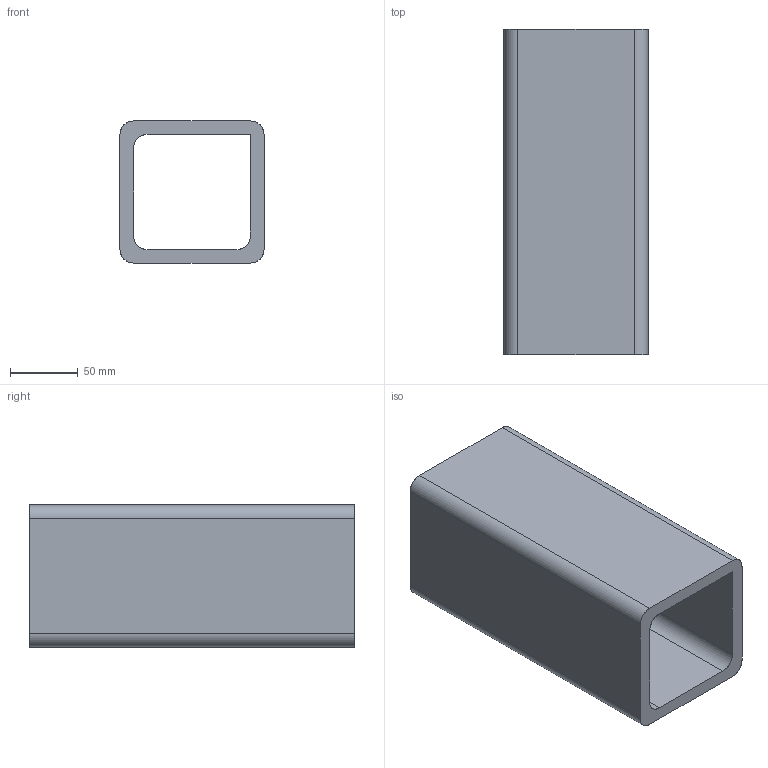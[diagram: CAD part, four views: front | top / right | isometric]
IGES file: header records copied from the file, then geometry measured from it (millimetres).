
Start section: SolidWorks IGES file using analytic representation for surfaces
Global section: file name: C:\Documents and Settings\Pc\Escritorio\Modelos 3D\Capítulo 4 (Caída)\PRÁCTICAS PROPUESTAS\P-5\p5.IGS; native system: SolidWorks 2010; preprocessor: SolidWorks 2010; author: Pc; date: 100623.114043; units: millimetre
Bounding box: 106.62 x 241 x 105.19 mm (x, y, z)
Surface area: 185293.7 mm2 (no closed solid volume)
Topology: 0 solids, 0 shells, 17 faces, 188 edges, 188 vertices
Faces by surface type: bspline 10, revolution 7
